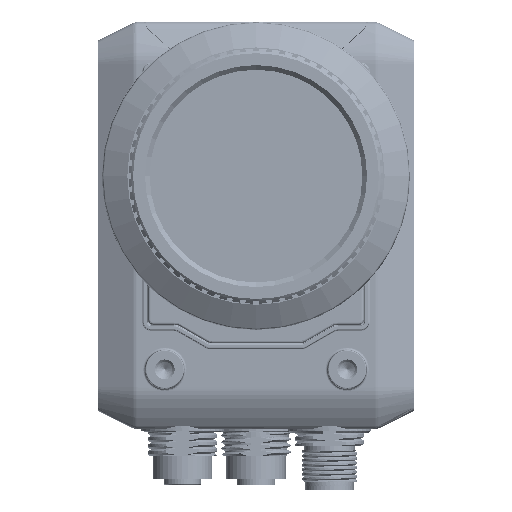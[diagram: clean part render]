
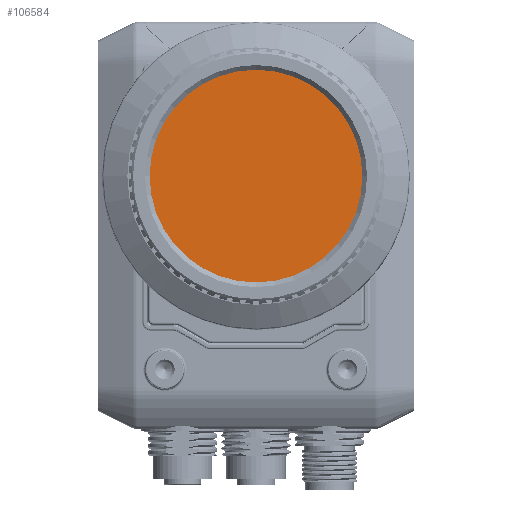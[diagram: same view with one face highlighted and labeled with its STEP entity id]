
A CAD part, front view. The second image highlights one B-rep face of the part: STEP entity #106584.
In plain terms, the highlighted planar face has unit normal (0, -1, 0) as drawn and (0, 0, 1) by its records, which use the part's own axes.
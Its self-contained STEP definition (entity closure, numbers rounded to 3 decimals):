
#106504=CARTESIAN_POINT('',(0.,0.,2.));
#106505=DIRECTION('',(0.,0.,1.));
#106506=DIRECTION('',(1.,0.,0.));
#106507=AXIS2_PLACEMENT_3D('',#106504,#106505,#106506);
#106512=CARTESIAN_POINT('',(0.,0.,2.));
#106513=DIRECTION('',(0.,0.,1.));
#106514=DIRECTION('',(-1.,0.,0.));
#106515=AXIS2_PLACEMENT_3D('',#106512,#106513,#106514);
#106524=CARTESIAN_POINT('',(24.85,0.,2.));
#106525=CARTESIAN_POINT('',(-24.85,0.,2.));
#106526=VERTEX_POINT('',#106524);
#106527=VERTEX_POINT('',#106525);
#106575=CARTESIAN_POINT('',(0.,0.,2.));
#106576=DIRECTION('',(0.,0.,1.));
#106577=DIRECTION('',(1.,0.,0.));
#106578=AXIS2_PLACEMENT_3D('',#106575,#106576,#106577);
#106579=PLANE('',#106578);
#106580=ORIENTED_EDGE('',*,*,#106555,.F.);
#106581=ORIENTED_EDGE('',*,*,#106569,.F.);
#106582=EDGE_LOOP('',(#106580,#106581));
#106583=FACE_OUTER_BOUND('',#106582,.F.);
#106508=CIRCLE('',#106507,24.85);
#106516=CIRCLE('',#106515,24.85);
#106555=EDGE_CURVE('',#106526,#106527,#106508,.T.);
#106569=EDGE_CURVE('',#106527,#106526,#106516,.T.);
#106584=ADVANCED_FACE('',(#106583),#106579,.T.);
